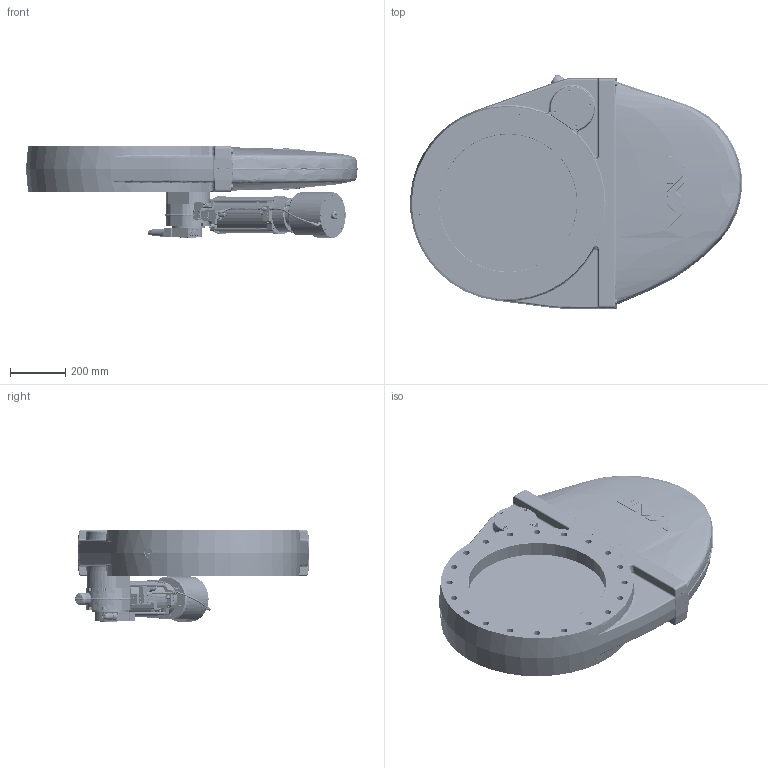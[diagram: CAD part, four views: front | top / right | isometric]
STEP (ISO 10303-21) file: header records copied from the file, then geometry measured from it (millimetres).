
FILE_DESCRIPTION(/* description */ (''),/* implementation_level */ '2;1');
FILE_NAME(/* name */ '1795741030_203.stp',/* time_stamp */ '2015-07-14T10:06:54+02:00',/* author */ (''),/* organization */ (''),/* preprocessor_version */ 'ST-DEVELOPER v15',/* originating_system */ 'SIEMENS PLM Software NX 9.0',/* authorisation */ '');
FILE_SCHEMA (('AP203_CONFIGURATION_CONTROLLED_3D_DESIGN_OF_MECHANICAL_PARTS_AND_ASSEMBLIES_MIM_LF { 1 0 10303 403 2 1 2}'));
Products named in the file (59): 467882; 437235; N-7557-016_1.1; N-7557-018.1; N-7557-016_2.1; N-6024-524.1; N-5018-005.1; n-8504-002; N-6072-440.1; 230750.3; 392938; 351417.2; N-6053-411.2; 244319.1; 214070.1; N-6029-102.1; 247711.1; N-6005-474.1; N-6053-007.2; 60532-01_1.2; N-7607-350_1.1; N-6121-027.2; 230591.1; 60539-01.1; N-6016-123.1; 60538-01.1; 224848.2; N-6203-417.1; 224870.2; N-6001-091.1; 60538-01_2.1; N-6013-433.1; N-6134-411.1; 224833.1; 218207.2; N-8504-102.3; N-6027-015.3; 239902.4; 243014.3; 200438_6.1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
Assembly tree (111 placements, depth 4):
  800381
    200438_3.1
    200438_10.1
    240924.4
    240935.2
    240933.1
    237644.3  x2
    343406.1
    245322.1
    239004.3  x4
    236583.3  x2
    259262.1
    230594.2
    230595.2
    351390.2
    393878
    338691.3
    200438_6.1
    243014.3
    239902.4
    N-6027-015.3  x2
    N-8504-102.3
    218207.2  x4
    224833.1  x4
    N-6134-411.1  x4
    N-6013-433.1  x4
    60538-01_2.1
    N-6001-091.1  x3
    224870.2  x4
    N-6203-417.1
    224848.2  x4
    60538-01.1
    N-6016-123.1  x4
    60539-01.1
    230591.1
    N-6121-027.2  x4
    N-7607-350_1.1  x4
    60532-01_1.2  x2
    N-6053-007.2  x3
    N-6005-474.1  x8
    94800-R1.7_NX-ARRAGMNTKONFIG1  x2
      N-5018-005.1
      N-6024-524.1
      N-7557-016_2.1
      N-7557-018.1
      N-7557-016_1.1
      N-7557-016_3.1_MODELNX-ARRAGMNTArrangement 1
        437235
        467882
    247711.1
    N-6029-102.1  x2
    214070.1
    244319.1
    N-6053-411.2
    351417.2
    392938
    230750.3
    N-6072-440.1
    n-8504-002
Bounding box: 1205.98 x 850.78 x 337.27 mm (x, y, z)
Volume: 48433505.1 mm3; surface area: 5326156.5 mm2
Topology: 186 solids, 186 shells, 5329 faces, 12275 edges, 7795 vertices
Faces by surface type: plane 2509, cylinder 1391, bspline 854, cone 455, torus 57, sphere 39, extrusion 24
Full cylindrical faces by diameter (mm): 1.5 x7, 1.6 x2, 1.66 x7, 1.8 x8, 2 x24, 2.2 x6, 2.25 x20, 2.45 x22, 2.5 x12, 2.55 x4, 2.9 x2, 3 x47, 3.025 x8, 3.07 x12, 3.2 x21, 3.26 x4, 3.28 x8, 3.3 x8, 3.4 x8, 3.5 x10, 3.6 x2, 4 x17, 4.16 x1, 4.2 x34, 4.22 x2, 4.5 x4, 4.55 x8, 4.96 x9, 5 x47, 5.05 x2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
Entity records: 146379 total; most frequent: CARTESIAN_POINT 60588, DIRECTION 14755, ORIENTED_EDGE 14572, EDGE_CURVE 7286, AXIS2_PLACEMENT_3D 6090, EDGE_LOOP 5464, VERTEX_POINT 5264, ADVANCED_FACE 3696
